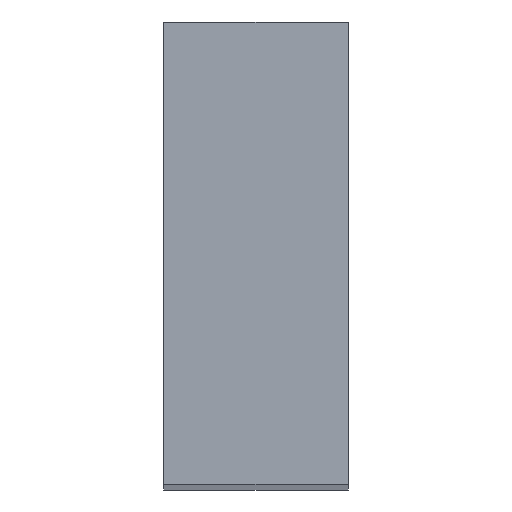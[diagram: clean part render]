
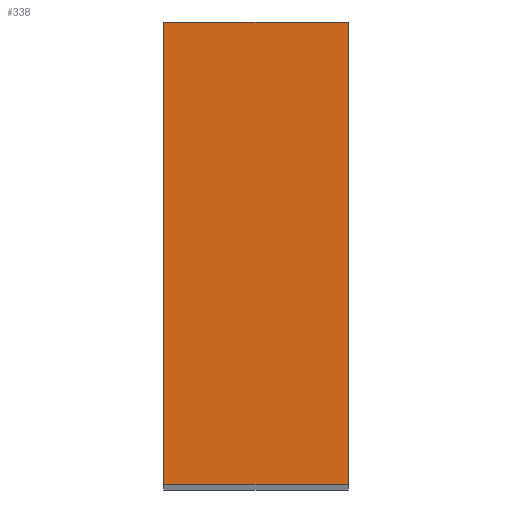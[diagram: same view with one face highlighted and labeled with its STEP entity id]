
A CAD part, top view. The second image highlights one B-rep face of the part: STEP entity #338.
In plain terms, the highlighted planar face has unit normal (0, 0, 1).
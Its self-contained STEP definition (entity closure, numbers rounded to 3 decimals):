
#21 = EDGE_CURVE('',#22,#24,#26,.T.);
#22 = VERTEX_POINT('',#23);
#23 = CARTESIAN_POINT('',(-64.5,25.5,129.));
#24 = VERTEX_POINT('',#25);
#25 = CARTESIAN_POINT('',(-64.5,15.5,129.));
#26 = SURFACE_CURVE('',#27,(#31,#43),.PCURVE_S1.);
#27 = LINE('',#28,#29);
#28 = CARTESIAN_POINT('',(-64.5,15.5,129.));
#29 = VECTOR('',#30,1.);
#30 = DIRECTION('',(0.,-1.,0.));
#31 = PCURVE('',#32,#37);
#32 = PLANE('',#33);
#33 = AXIS2_PLACEMENT_3D('',#34,#35,#36);
#34 = CARTESIAN_POINT('',(-64.5,15.5,55.));
#35 = DIRECTION('',(1.,0.,0.));
#36 = DIRECTION('',(0.,0.,1.));
#37 = DEFINITIONAL_REPRESENTATION('',(#38),#42);
#38 = LINE('',#39,#40);
#39 = CARTESIAN_POINT('',(74.,0.));
#40 = VECTOR('',#41,1.);
#41 = DIRECTION('',(0.,1.));
#42 = ( GEOMETRIC_REPRESENTATION_CONTEXT(2) 
PARAMETRIC_REPRESENTATION_CONTEXT() REPRESENTATION_CONTEXT('2D SPACE',''
  ) );
#43 = PCURVE('',#44,#49);
#44 = PLANE('',#45);
#45 = AXIS2_PLACEMENT_3D('',#46,#47,#48);
#46 = CARTESIAN_POINT('',(-64.5,15.5,129.));
#47 = DIRECTION('',(0.,0.,1.));
#48 = DIRECTION('',(1.,0.,0.));
#49 = DEFINITIONAL_REPRESENTATION('',(#50),#54);
#50 = LINE('',#51,#52);
#51 = CARTESIAN_POINT('',(0.,0.));
#52 = VECTOR('',#53,1.);
#53 = DIRECTION('',(0.,-1.));
#54 = ( GEOMETRIC_REPRESENTATION_CONTEXT(2) 
PARAMETRIC_REPRESENTATION_CONTEXT() REPRESENTATION_CONTEXT('2D SPACE',''
  ) );
#72 = PLANE('',#73);
#73 = AXIS2_PLACEMENT_3D('',#74,#75,#76);
#74 = CARTESIAN_POINT('',(-64.5,25.5,55.));
#75 = DIRECTION('',(0.,1.,0.));
#76 = DIRECTION('',(0.,0.,1.));
#126 = PLANE('',#127);
#127 = AXIS2_PLACEMENT_3D('',#128,#129,#130);
#128 = CARTESIAN_POINT('',(-64.5,15.5,55.));
#129 = DIRECTION('',(0.,1.,0.));
#130 = DIRECTION('',(0.,0.,1.));
#144 = VERTEX_POINT('',#145);
#145 = CARTESIAN_POINT('',(-60.5,15.5,129.));
#152 = PLANE('',#153);
#153 = AXIS2_PLACEMENT_3D('',#154,#155,#156);
#154 = CARTESIAN_POINT('',(-60.5,15.5,55.));
#155 = DIRECTION('',(1.,0.,0.));
#156 = DIRECTION('',(0.,0.,1.));
#195 = VERTEX_POINT('',#196);
#196 = CARTESIAN_POINT('',(-60.5,25.5,129.));
#217 = EDGE_CURVE('',#144,#195,#218,.T.);
#218 = SURFACE_CURVE('',#219,(#223,#230),.PCURVE_S1.);
#219 = LINE('',#220,#221);
#220 = CARTESIAN_POINT('',(-60.5,15.5,129.));
#221 = VECTOR('',#222,1.);
#222 = DIRECTION('',(0.,1.,0.));
#223 = PCURVE('',#152,#224);
#224 = DEFINITIONAL_REPRESENTATION('',(#225),#229);
#225 = LINE('',#226,#227);
#226 = CARTESIAN_POINT('',(74.,0.));
#227 = VECTOR('',#228,1.);
#228 = DIRECTION('',(0.,-1.));
#229 = ( GEOMETRIC_REPRESENTATION_CONTEXT(2) 
PARAMETRIC_REPRESENTATION_CONTEXT() REPRESENTATION_CONTEXT('2D SPACE',''
  ) );
#230 = PCURVE('',#44,#231);
#231 = DEFINITIONAL_REPRESENTATION('',(#232),#236);
#232 = LINE('',#233,#234);
#233 = CARTESIAN_POINT('',(4.,0.));
#234 = VECTOR('',#235,1.);
#235 = DIRECTION('',(0.,1.));
#236 = ( GEOMETRIC_REPRESENTATION_CONTEXT(2) 
PARAMETRIC_REPRESENTATION_CONTEXT() REPRESENTATION_CONTEXT('2D SPACE',''
  ) );
#242 = EDGE_CURVE('',#24,#144,#243,.T.);
#243 = SURFACE_CURVE('',#244,(#248,#255),.PCURVE_S1.);
#244 = LINE('',#245,#246);
#245 = CARTESIAN_POINT('',(-64.5,15.5,129.));
#246 = VECTOR('',#247,1.);
#247 = DIRECTION('',(1.,0.,0.));
#248 = PCURVE('',#126,#249);
#249 = DEFINITIONAL_REPRESENTATION('',(#250),#254);
#250 = LINE('',#251,#252);
#251 = CARTESIAN_POINT('',(74.,0.));
#252 = VECTOR('',#253,1.);
#253 = DIRECTION('',(0.,1.));
#254 = ( GEOMETRIC_REPRESENTATION_CONTEXT(2) 
PARAMETRIC_REPRESENTATION_CONTEXT() REPRESENTATION_CONTEXT('2D SPACE',''
  ) );
#255 = PCURVE('',#44,#256);
#256 = DEFINITIONAL_REPRESENTATION('',(#257),#261);
#257 = LINE('',#258,#259);
#258 = CARTESIAN_POINT('',(0.,0.));
#259 = VECTOR('',#260,1.);
#260 = DIRECTION('',(1.,0.));
#261 = ( GEOMETRIC_REPRESENTATION_CONTEXT(2) 
PARAMETRIC_REPRESENTATION_CONTEXT() REPRESENTATION_CONTEXT('2D SPACE',''
  ) );
#310 = EDGE_CURVE('',#22,#195,#311,.T.);
#311 = SURFACE_CURVE('',#312,(#316,#323),.PCURVE_S1.);
#312 = LINE('',#313,#314);
#313 = CARTESIAN_POINT('',(-64.5,25.5,129.));
#314 = VECTOR('',#315,1.);
#315 = DIRECTION('',(1.,0.,0.));
#316 = PCURVE('',#72,#317);
#317 = DEFINITIONAL_REPRESENTATION('',(#318),#322);
#318 = LINE('',#319,#320);
#319 = CARTESIAN_POINT('',(74.,0.));
#320 = VECTOR('',#321,1.);
#321 = DIRECTION('',(0.,1.));
#322 = ( GEOMETRIC_REPRESENTATION_CONTEXT(2) 
PARAMETRIC_REPRESENTATION_CONTEXT() REPRESENTATION_CONTEXT('2D SPACE',''
  ) );
#323 = PCURVE('',#44,#324);
#324 = DEFINITIONAL_REPRESENTATION('',(#325),#329);
#325 = LINE('',#326,#327);
#326 = CARTESIAN_POINT('',(0.,10.));
#327 = VECTOR('',#328,1.);
#328 = DIRECTION('',(1.,0.));
#329 = ( GEOMETRIC_REPRESENTATION_CONTEXT(2) 
PARAMETRIC_REPRESENTATION_CONTEXT() REPRESENTATION_CONTEXT('2D SPACE',''
  ) );
#338 = ADVANCED_FACE('',(#339),#44,.T.);
#339 = FACE_BOUND('',#340,.T.);
#340 = EDGE_LOOP('',(#341,#342,#343,#344));
#341 = ORIENTED_EDGE('',*,*,#21,.T.);
#342 = ORIENTED_EDGE('',*,*,#242,.T.);
#343 = ORIENTED_EDGE('',*,*,#217,.T.);
#344 = ORIENTED_EDGE('',*,*,#310,.F.);
